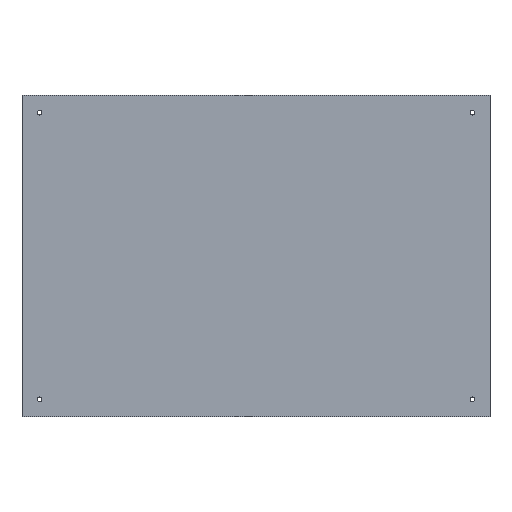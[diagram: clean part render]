
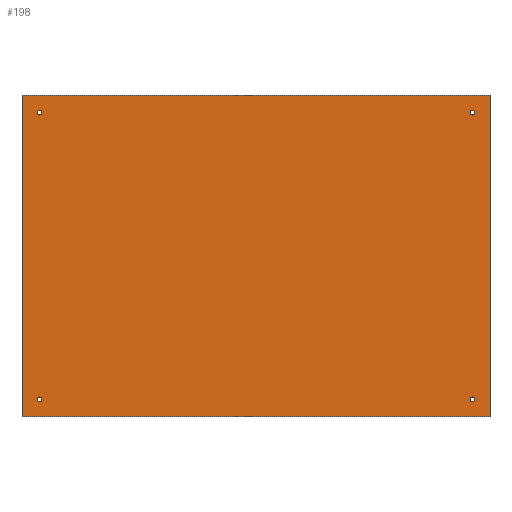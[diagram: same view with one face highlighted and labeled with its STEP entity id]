
A CAD part, top view. The second image highlights one B-rep face of the part: STEP entity #198.
In plain terms, the highlighted planar face has unit normal (0, 0, 1).
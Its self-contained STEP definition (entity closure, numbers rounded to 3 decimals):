
#42 = VERTEX_POINT('',#43);
#43 = CARTESIAN_POINT('',(320.,-220.,1.51));
#49 = EDGE_CURVE('',#42,#50,#52,.T.);
#50 = VERTEX_POINT('',#51);
#51 = CARTESIAN_POINT('',(0.,-220.,1.51));
#52 = LINE('',#53,#54);
#53 = CARTESIAN_POINT('',(320.,-220.,1.51));
#54 = VECTOR('',#55,1.);
#55 = DIRECTION('',(-1.,0.,0.));
#82 = VERTEX_POINT('',#83);
#83 = CARTESIAN_POINT('',(320.,0.,1.51));
#89 = EDGE_CURVE('',#82,#42,#90,.T.);
#90 = LINE('',#91,#92);
#91 = CARTESIAN_POINT('',(320.,0.,1.51));
#92 = VECTOR('',#93,1.);
#93 = DIRECTION('',(0.,-1.,0.));
#111 = EDGE_CURVE('',#50,#112,#114,.T.);
#112 = VERTEX_POINT('',#113);
#113 = CARTESIAN_POINT('',(0.,0.,1.51));
#114 = LINE('',#115,#116);
#115 = CARTESIAN_POINT('',(0.,-220.,1.51));
#116 = VECTOR('',#117,1.);
#117 = DIRECTION('',(0.,1.,0.));
#198 = ADVANCED_FACE('',(#199,#210,#221,#232,#243),#254,.T.);
#199 = FACE_BOUND('',#200,.T.);
#200 = EDGE_LOOP('',(#201,#202,#203,#209));
#201 = ORIENTED_EDGE('',*,*,#49,.F.);
#202 = ORIENTED_EDGE('',*,*,#89,.F.);
#203 = ORIENTED_EDGE('',*,*,#204,.F.);
#204 = EDGE_CURVE('',#112,#82,#205,.T.);
#205 = LINE('',#206,#207);
#206 = CARTESIAN_POINT('',(0.,0.,1.51));
#207 = VECTOR('',#208,1.);
#208 = DIRECTION('',(1.,0.,0.));
#209 = ORIENTED_EDGE('',*,*,#111,.F.);
#210 = FACE_BOUND('',#211,.T.);
#211 = EDGE_LOOP('',(#212));
#212 = ORIENTED_EDGE('',*,*,#213,.T.);
#213 = EDGE_CURVE('',#214,#214,#216,.T.);
#214 = VERTEX_POINT('',#215);
#215 = CARTESIAN_POINT('',(12.,-209.6,1.51));
#216 = CIRCLE('',#217,1.6);
#217 = AXIS2_PLACEMENT_3D('',#218,#219,#220);
#218 = CARTESIAN_POINT('',(12.,-208.,1.51));
#219 = DIRECTION('',(-0.,0.,-1.));
#220 = DIRECTION('',(-0.,-1.,0.));
#221 = FACE_BOUND('',#222,.T.);
#222 = EDGE_LOOP('',(#223));
#223 = ORIENTED_EDGE('',*,*,#224,.T.);
#224 = EDGE_CURVE('',#225,#225,#227,.T.);
#225 = VERTEX_POINT('',#226);
#226 = CARTESIAN_POINT('',(308.,-209.6,1.51));
#227 = CIRCLE('',#228,1.6);
#228 = AXIS2_PLACEMENT_3D('',#229,#230,#231);
#229 = CARTESIAN_POINT('',(308.,-208.,1.51));
#230 = DIRECTION('',(-0.,0.,-1.));
#231 = DIRECTION('',(-0.,-1.,0.));
#232 = FACE_BOUND('',#233,.T.);
#233 = EDGE_LOOP('',(#234));
#234 = ORIENTED_EDGE('',*,*,#235,.T.);
#235 = EDGE_CURVE('',#236,#236,#238,.T.);
#236 = VERTEX_POINT('',#237);
#237 = CARTESIAN_POINT('',(12.,-13.6,1.51));
#238 = CIRCLE('',#239,1.6);
#239 = AXIS2_PLACEMENT_3D('',#240,#241,#242);
#240 = CARTESIAN_POINT('',(12.,-12.,1.51));
#241 = DIRECTION('',(-0.,0.,-1.));
#242 = DIRECTION('',(-0.,-1.,0.));
#243 = FACE_BOUND('',#244,.T.);
#244 = EDGE_LOOP('',(#245));
#245 = ORIENTED_EDGE('',*,*,#246,.T.);
#246 = EDGE_CURVE('',#247,#247,#249,.T.);
#247 = VERTEX_POINT('',#248);
#248 = CARTESIAN_POINT('',(308.,-13.6,1.51));
#249 = CIRCLE('',#250,1.6);
#250 = AXIS2_PLACEMENT_3D('',#251,#252,#253);
#251 = CARTESIAN_POINT('',(308.,-12.,1.51));
#252 = DIRECTION('',(-0.,0.,-1.));
#253 = DIRECTION('',(-0.,-1.,0.));
#254 = PLANE('',#255);
#255 = AXIS2_PLACEMENT_3D('',#256,#257,#258);
#256 = CARTESIAN_POINT('',(0.,0.,1.51));
#257 = DIRECTION('',(0.,0.,1.));
#258 = DIRECTION('',(1.,0.,-0.));
